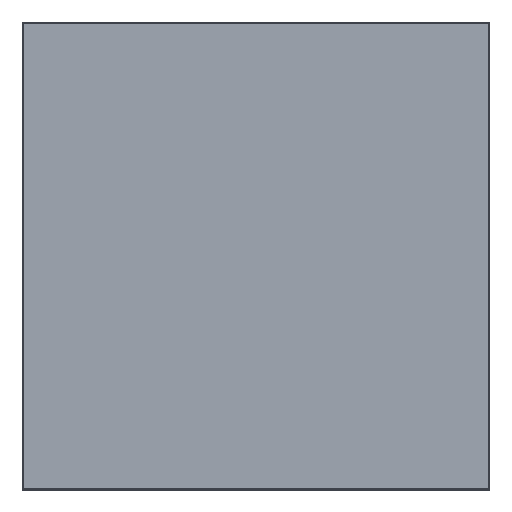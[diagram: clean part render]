
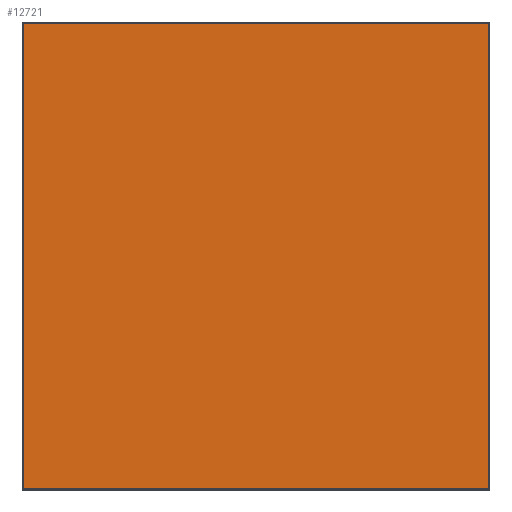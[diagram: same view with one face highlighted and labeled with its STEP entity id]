
A CAD part, top view. The second image highlights one B-rep face of the part: STEP entity #12721.
In plain terms, the highlighted planar face has unit normal (0, 0, 1).
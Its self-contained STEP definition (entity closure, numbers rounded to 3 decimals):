
#12682=CARTESIAN_POINT('',(0.,0.,20.));
#12683=DIRECTION('',(1.,0.,0.));
#12684=DIRECTION('',(0.,0.,1.));
#12685=AXIS2_PLACEMENT_3D('',#12682,#12684,#12683);
#12686=PLANE('',#12685);
#12687=CARTESIAN_POINT('',(348.5,-348.5,20.));
#12688=VERTEX_POINT('',#12687);
#12689=CARTESIAN_POINT('',(348.5,348.5,20.));
#12690=VERTEX_POINT('',#12689);
#12691=CARTESIAN_POINT('',(348.5,-348.5,20.));
#12692=DIRECTION('',(0.,1.,0.));
#12693=VECTOR('',#12692,697.);
#12694=LINE('',#12691,#12693);
#12695=EDGE_CURVE('',#12688,#12690,#12694,.T.);
#12696=ORIENTED_EDGE('E118',*,*,#12695,.T.);
#12697=CARTESIAN_POINT('',(-348.5,348.5,20.));
#12698=VERTEX_POINT('',#12697);
#12699=CARTESIAN_POINT('',(348.5,348.5,20.));
#12700=DIRECTION('',(-1.,0.,0.));
#12701=VECTOR('',#12700,697.);
#12702=LINE('',#12699,#12701);
#12703=EDGE_CURVE('',#12690,#12698,#12702,.T.);
#12704=ORIENTED_EDGE('E119',*,*,#12703,.T.);
#12705=CARTESIAN_POINT('',(-348.5,-348.5,20.));
#12706=VERTEX_POINT('',#12705);
#12707=CARTESIAN_POINT('',(-348.5,348.5,20.));
#12708=DIRECTION('',(0.,-1.,0.));
#12709=VECTOR('',#12708,697.);
#12710=LINE('',#12707,#12709);
#12711=EDGE_CURVE('',#12698,#12706,#12710,.T.);
#12712=ORIENTED_EDGE('E120',*,*,#12711,.T.);
#12713=CARTESIAN_POINT('',(-348.5,-348.5,20.));
#12714=DIRECTION('',(1.,0.,0.));
#12715=VECTOR('',#12714,697.);
#12716=LINE('',#12713,#12715);
#12717=EDGE_CURVE('',#12706,#12688,#12716,.T.);
#12718=ORIENTED_EDGE('E117',*,*,#12717,.T.);
#12719=EDGE_LOOP('',(#12696,#12704,#12712,#12718));
#12720=FACE_OUTER_BOUND('',#12719,.T.);
#12721=ADVANCED_FACE('F2',(#12720),#12686,.T.);
